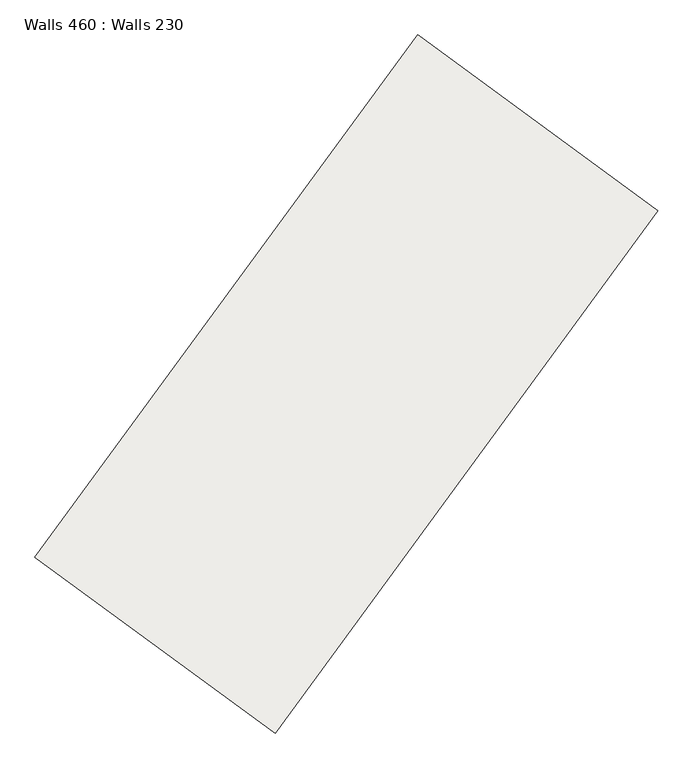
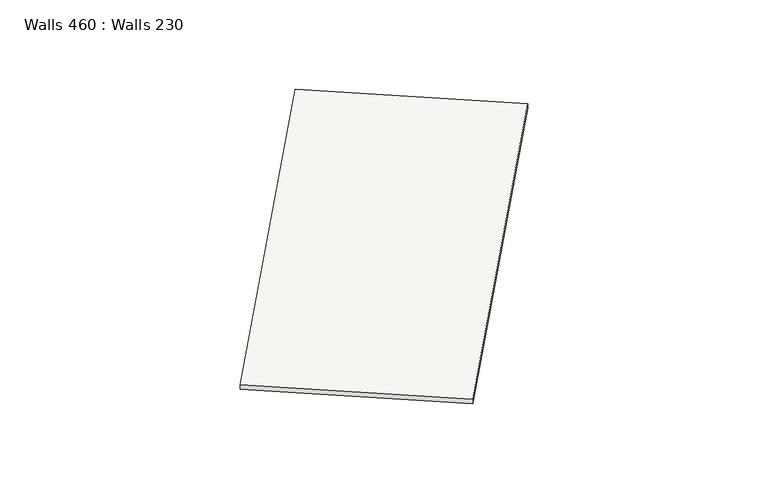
"""IFC4 building model written with IfcOpenShell, lengths in millimetres: slab geometry, Walls 460 : Walls 230."""

from ifc_helpers import new_model, si_unit, frame, origin, place, context, project, spatial, polyline, outline, extrude, source, transform, mapped, element, save


def walls_460_walls_230_73e63edb(model_context):
    return source(origin(), model_context, "Body", "SweptSolid", [
        extrude(outline(polyline([(-50.0, 0.0), (50.0, 0.0), (-62.2, -8700.0000007), (-162.2, -8700.0000007), (-50.0, 0.0)])), frame((434693.6587618, 311458.1836513, 645649.1), z_axis=(-0.8067016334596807, 0.5909589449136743, 0.0), x_axis=(0.0, 0.0, 1.0)), (0.0, 0.0, 1.0), 4000.0),
    ])


if __name__ == "__main__":
    model = new_model("IFC4")
    model_context = context("Model", 3, world=origin())
    ifc_project = project(units=[si_unit("LENGTHUNIT", "METRE", prefix="MILLI")], contexts=[model_context])
    site = spatial("IfcSite", under=ifc_project)
    building = spatial("IfcBuilding", under=site)
    placement = place(None, origin())
    walls_460_walls_230_shape = walls_460_walls_230_73e63edb(model_context)
    element("IfcSlab", 1, ObjectType="Walls 460 : Walls 230", at=placement, inside=building, context=model_context, shape_type="MappedRepresentation", body=[
        mapped(walls_460_walls_230_shape, transform((0.0, 0.0, 0.0), x_axis=(1.0, 0.0, 0.0), y_axis=(0.0, 1.0, 0.0), z_axis=(0.0, 0.0, 1.0))),
    ])
    save(model, "model.ifc")
